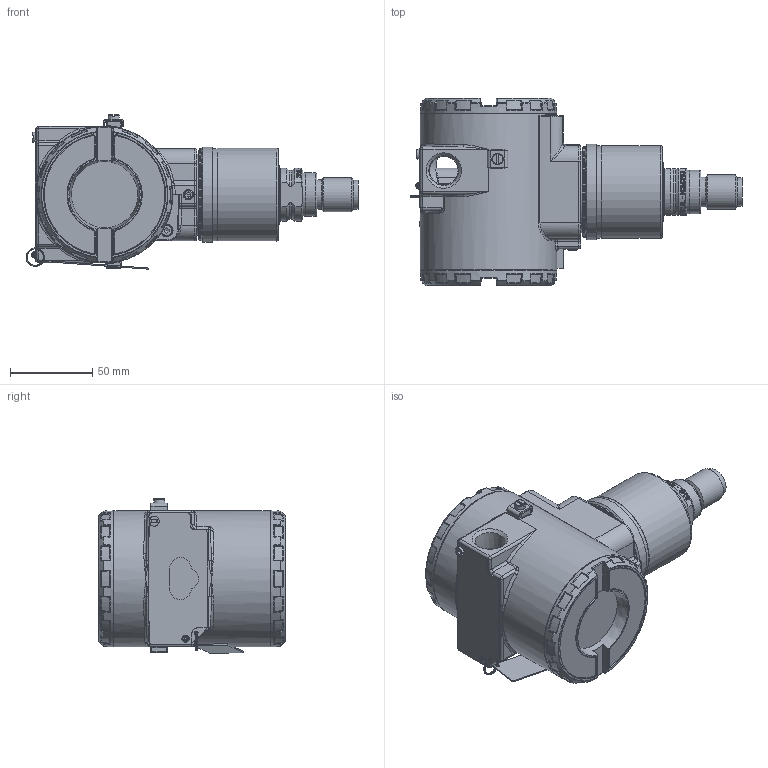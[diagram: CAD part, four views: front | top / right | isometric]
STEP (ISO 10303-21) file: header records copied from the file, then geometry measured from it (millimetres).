
FILE_DESCRIPTION(/* description */ (''),/* implementation_level */ '2;1');
FILE_NAME(/* name */ 'F:\Area\Desenvolvimento_2\Projects\Sensor\projetos\LD29X\3d\dimensionais 3D - clientes\LD29XM2-3 G1-2 B HP.stp',/* time_stamp */ '2023-01-31T09:24:32-03:00',/* author */ ('inventor02'),/* organization */ (''),/* preprocessor_version */ 'ST-DEVELOPER v17',/* originating_system */ 'Autodesk Inventor 2019',/* authorisation */ '');
FILE_SCHEMA (('CONFIG_CONTROL_DESIGN'));
Products named in the file (27): LD29XM2-3 G1-2 B HP; SENSOR 29X FX2-3 G1-2 B HP; 101-B-5895-01 capa fx2-3; 101-C-3677-06 conexao ao processo 1-2NPT; 101-D-1309-04 pescoço LD29x usinado; 101-B-1773-06 conexão G1-2 B HP EN837-1; carcaça vazia com tampas e plaqueta; carcaça LD inox sem letras; Subconjunto plaqueta 300; Plaqueta transmissor; Parafuso da Plaqueta; Rebite da Plaqueta; 096-A-0169-03; 101-A-0502-01; Chapa aterramento externo; ISO 1207 - M4 x 8; DIN 915 - M6 x 10; ANSI B18.3.1M - M4x0,7 x 8; Subconjunto tampa com visor aluminio; tampa pintada; VIDRO DO VISOR; oring 41x1 vidro tampa; Trava do vidro da tampa com visor; trava do vidro VH256; Subconjunto tampa sem visor-aluminio; tampa cega 300 pintada p0; 00034775-0
Assembly tree (28 placements, depth 4):
  LD29XM2-3 G1-2 B HP
    SENSOR 29X FX2-3 G1-2 B HP
      101-B-5895-01 capa fx2-3
      101-C-3677-06 conexao ao processo 1-2NPT
      101-D-1309-04 pescoço LD29x usinado
      101-B-1773-06 conexão G1-2 B HP EN837-1
    carcaça vazia com tampas e plaqueta
      carcaça LD inox sem letras
      Subconjunto plaqueta 300
        Plaqueta transmissor
        Parafuso da Plaqueta
        Rebite da Plaqueta
        096-A-0169-03
        101-A-0502-01
      Chapa aterramento externo
      ISO 1207 - M4 x 8
      DIN 915 - M6 x 10
      ANSI B18.3.1M - M4x0,7 x 8  x2
      Subconjunto tampa com visor aluminio
        tampa pintada
        VIDRO DO VISOR
        oring 41x1 vidro tampa
        Trava do vidro da tampa com visor
        trava do vidro VH256
        00034775-0
      Subconjunto tampa sem visor-aluminio
        tampa cega 300 pintada p0
        00034775-0
Bounding box: 202.09 x 114 x 93.95 mm (x, y, z)
Volume: 420741.8 mm3; surface area: 183608.9 mm2
Topology: 23 solids, 23 shells, 1926 faces, 4693 edges, 2808 vertices
Faces by surface type: bspline 575, cylinder 431, plane 387, torus 266, cone 162, sphere 105
Full cylindrical faces by diameter (mm): 2 x2, 2.1 x2, 2.459 x5, 2.642 x1, 2.7 x1, 3 x1, 3.242 x4, 3.5 x8, 3.571 x1, 4 x4, 4.3 x1, 4.4 x2, 4.917 x1, 6 x2, 7 x4, 7.087 x2, 7.6 x2, 8 x1, 8.7 x2, 17.475 x2, 17.5 x2, 18 x2, 20.8 x1, 26.5 x2, 28.399 x1, 32.2 x1, 34.15 x1, 35.15 x1, 35.2 x1, 36 x1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
Entity records: 71606 total; most frequent: CARTESIAN_POINT 28108, ORIENTED_EDGE 9158, DIRECTION 8500, EDGE_CURVE 4579, AXIS2_PLACEMENT_3D 3678, VERTEX_POINT 2779, CIRCLE 2161, EDGE_LOOP 2018
